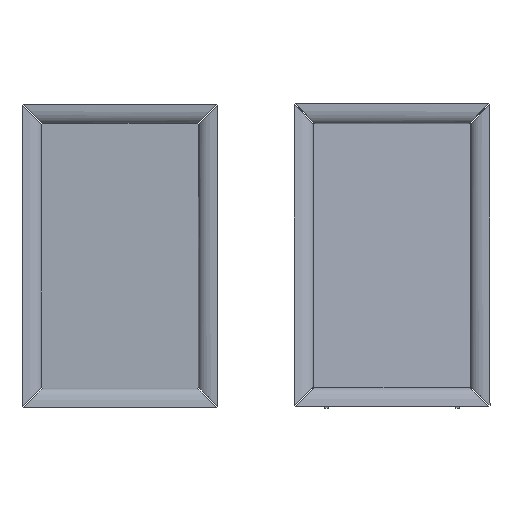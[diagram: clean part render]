
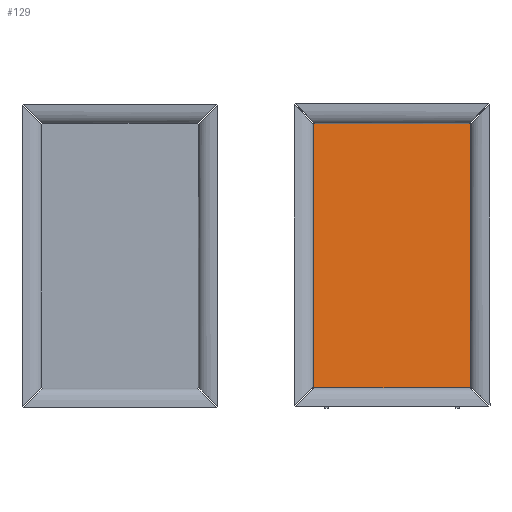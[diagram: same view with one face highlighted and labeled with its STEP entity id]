
A CAD part, front view. The second image highlights one B-rep face of the part: STEP entity #129.
In plain terms, the highlighted planar face has unit normal (0, -0.998, 0.07).
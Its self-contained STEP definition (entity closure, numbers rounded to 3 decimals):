
#129=ADVANCED_FACE('',(#316),#2795,.T.);
#316=FACE_OUTER_BOUND('',#505,.T.);
#505=EDGE_LOOP('',(#1004,#1005,#1006,#1007,#1008,#1009,#1010,#1011));
#1004=ORIENTED_EDGE('',*,*,#1699,.F.);
#1005=ORIENTED_EDGE('',*,*,#1690,.F.);
#1006=ORIENTED_EDGE('',*,*,#1698,.F.);
#1007=ORIENTED_EDGE('',*,*,#1689,.F.);
#1008=ORIENTED_EDGE('',*,*,#1697,.F.);
#1009=ORIENTED_EDGE('',*,*,#1688,.F.);
#1010=ORIENTED_EDGE('',*,*,#1696,.F.);
#1011=ORIENTED_EDGE('',*,*,#1691,.F.);
#1688=EDGE_CURVE('',#2501,#2500,#2129,.T.);
#1689=EDGE_CURVE('',#2503,#2502,#2130,.T.);
#1690=EDGE_CURVE('',#2505,#2504,#2131,.T.);
#1691=EDGE_CURVE('',#2507,#2506,#2132,.T.);
#1696=EDGE_CURVE('',#2506,#2501,#2137,.T.);
#1697=EDGE_CURVE('',#2500,#2503,#2138,.T.);
#1698=EDGE_CURVE('',#2502,#2505,#2139,.T.);
#1699=EDGE_CURVE('',#2504,#2507,#2140,.T.);
#2129=B_SPLINE_CURVE_WITH_KNOTS('',1,(#4426,#4427),.UNSPECIFIED.,.F.,.F.,
(2,2),(0.85,207.95),.UNSPECIFIED.);
#2130=B_SPLINE_CURVE_WITH_KNOTS('',1,(#4428,#4429),.UNSPECIFIED.,.F.,.F.,
(2,2),(0.85,122.95),.UNSPECIFIED.);
#2131=B_SPLINE_CURVE_WITH_KNOTS('',1,(#4430,#4431),.UNSPECIFIED.,.F.,.F.,
(2,2),(0.85,207.95),.UNSPECIFIED.);
#2132=B_SPLINE_CURVE_WITH_KNOTS('',1,(#4432,#4433),.UNSPECIFIED.,.F.,.F.,
(2,2),(0.85,122.95),.UNSPECIFIED.);
#2137=B_SPLINE_CURVE_WITH_KNOTS('',1,(#4442,#4443),.UNSPECIFIED.,.F.,.F.,
(2,2),(-1.,0.),.UNSPECIFIED.);
#2138=B_SPLINE_CURVE_WITH_KNOTS('',1,(#4444,#4445),.UNSPECIFIED.,.F.,.F.,
(2,2),(0.,1.),.UNSPECIFIED.);
#2139=B_SPLINE_CURVE_WITH_KNOTS('',1,(#4446,#4447),.UNSPECIFIED.,.F.,.F.,
(2,2),(0.,1.),.UNSPECIFIED.);
#2140=B_SPLINE_CURVE_WITH_KNOTS('',1,(#4448,#4449),.UNSPECIFIED.,.F.,.F.,
(2,2),(0.,1.),.UNSPECIFIED.);
#2500=VERTEX_POINT('',#4410);
#2501=VERTEX_POINT('',#4411);
#2502=VERTEX_POINT('',#4412);
#2503=VERTEX_POINT('',#4413);
#2504=VERTEX_POINT('',#4414);
#2505=VERTEX_POINT('',#4415);
#2506=VERTEX_POINT('',#4416);
#2507=VERTEX_POINT('',#4417);
#2795=PLANE('',#2977);
#2977=AXIS2_PLACEMENT_3D('',#4366,#3065,$);
#3065=DIRECTION('',(0.,-0.998,0.07));
#4366=CARTESIAN_POINT('',(2144.592,-29.887,8.903));
#4410=CARTESIAN_POINT('',(2144.592,115.171,2083.338));
#4411=CARTESIAN_POINT('',(2144.592,-29.294,17.383));
#4412=CARTESIAN_POINT('',(3374.092,115.764,2091.817));
#4413=CARTESIAN_POINT('',(2153.092,115.764,2091.817));
#4414=CARTESIAN_POINT('',(3382.592,-29.294,17.383));
#4415=CARTESIAN_POINT('',(3382.592,115.171,2083.338));
#4416=CARTESIAN_POINT('',(2153.092,-29.887,8.903));
#4417=CARTESIAN_POINT('',(3374.092,-29.887,8.903));
#4426=CARTESIAN_POINT('',(2144.592,-29.294,17.383));
#4427=CARTESIAN_POINT('',(2144.592,115.171,2083.338));
#4428=CARTESIAN_POINT('',(2153.092,115.764,2091.817));
#4429=CARTESIAN_POINT('',(3374.092,115.764,2091.817));
#4430=CARTESIAN_POINT('',(3382.592,115.171,2083.338));
#4431=CARTESIAN_POINT('',(3382.592,-29.294,17.383));
#4432=CARTESIAN_POINT('',(3374.092,-29.887,8.903));
#4433=CARTESIAN_POINT('',(2153.092,-29.887,8.903));
#4442=CARTESIAN_POINT('',(2153.092,-29.887,8.903));
#4443=CARTESIAN_POINT('',(2144.592,-29.294,17.383));
#4444=CARTESIAN_POINT('',(2144.592,115.171,2083.338));
#4445=CARTESIAN_POINT('',(2153.092,115.764,2091.817));
#4446=CARTESIAN_POINT('',(3374.092,115.764,2091.817));
#4447=CARTESIAN_POINT('',(3382.592,115.171,2083.338));
#4448=CARTESIAN_POINT('',(3382.592,-29.294,17.383));
#4449=CARTESIAN_POINT('',(3374.092,-29.887,8.903));
